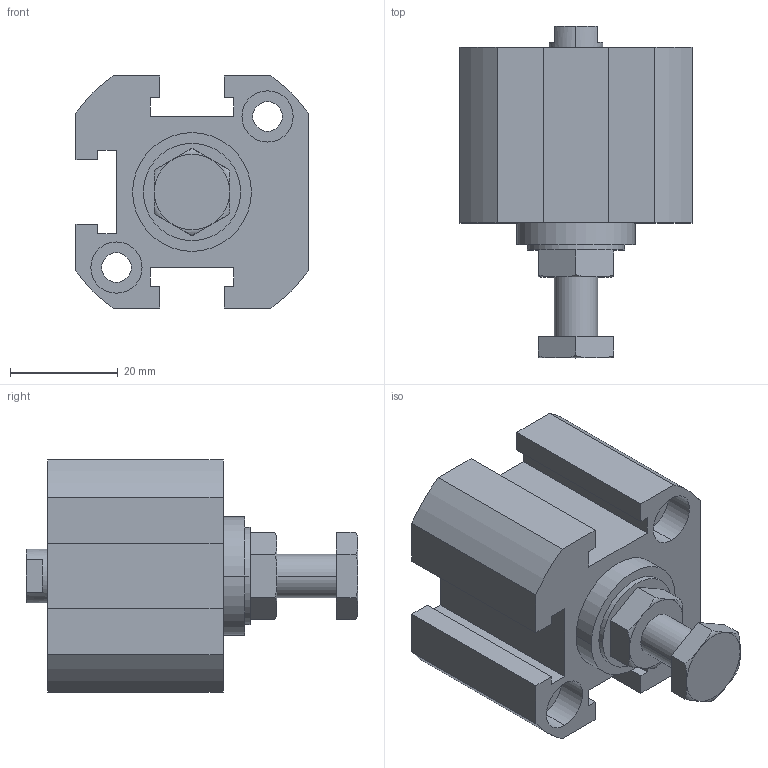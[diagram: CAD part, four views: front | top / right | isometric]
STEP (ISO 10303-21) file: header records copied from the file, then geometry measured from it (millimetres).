
FILE_DESCRIPTION (( 'STEP AP203' ), '1' );
FILE_NAME ('XCA2-25-10.STEP', '2016-05-24T02:30:42', ( '' ), ( '' ), 'SwSTEP 2.0', 'SolidWorks 2014', '' );
FILE_SCHEMA (( 'CONFIG_CONTROL_DESIGN' ));
Length unit declared in the file: millimetre
Products named in the file (3): XC#2-25-10; X#A2-25-H; XCA2-25-10
Assembly tree (2 placements, depth 2):
  XCA2-25-10
    XC#2-25-10
    X#A2-25-H
Bounding box: 43 x 61.5 x 43 mm (x, y, z)
Volume: 47856.8 mm3; surface area: 14439 mm2
Topology: 2 solids, 2 shells, 128 faces, 313 edges, 199 vertices
Faces by surface type: plane 62, cylinder 48, torus 12, cone 6
Entity records: 4256 total; most frequent: CARTESIAN_POINT 903, DIRECTION 661, ORIENTED_EDGE 614, EDGE_CURVE 307, AXIS2_PLACEMENT_3D 245, VERTEX_POINT 199, VECTOR 171, LINE 171
